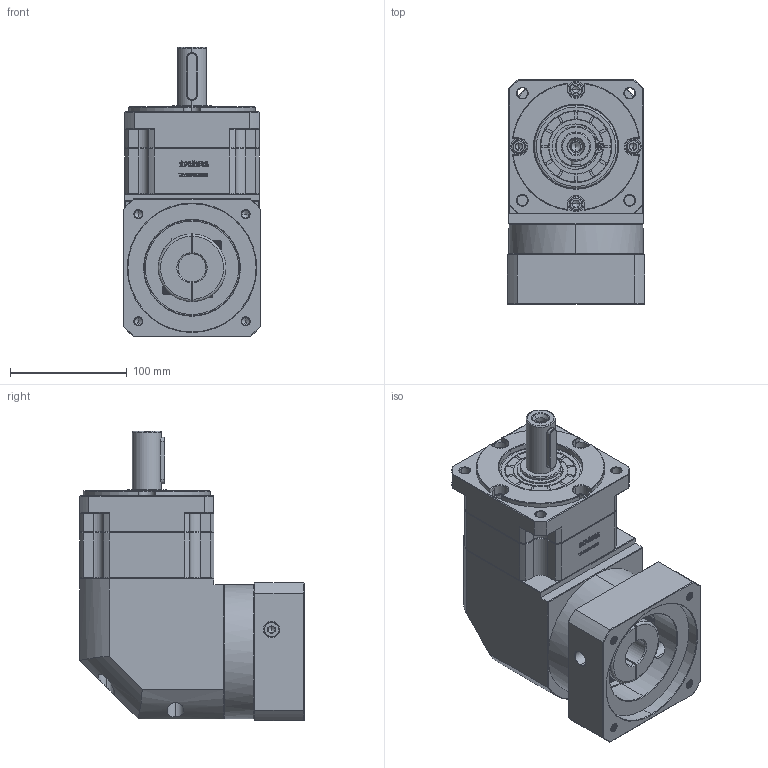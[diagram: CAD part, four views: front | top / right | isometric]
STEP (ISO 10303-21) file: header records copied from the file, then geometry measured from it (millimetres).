
FILE_DESCRIPTION (( 'STEP AP214' ), '1' );
FILE_NAME ('ZBR115A-D25-L1-24-110-130-M8.step', '2023-03-03T04:55:26', ( '' ), ( 'Microsoft' ), 'SwSTEP 2.0', 'SolidWorks 2016', '' );
FILE_SCHEMA (( 'AUTOMOTIVE_DESIGN' ));
Length unit declared in the file: millimetre
Products named in the file (1): ZBR115A-D25-L1-24-110-130-M8
Bounding box: 118 x 192.4 x 248 mm (x, y, z)
Volume: 2933473 mm3; surface area: 246921.8 mm2
Topology: 6 solids, 6 shells, 2981 faces, 7921 edges, 5086 vertices
Faces by surface type: plane 1559, bspline 606, cylinder 439, cone 369, torus 8
Entity records: 161772 total; most frequent: CARTESIAN_POINT 59752, ORIENTED_EDGE 15782, DIRECTION 11953, EDGE_CURVE 7891, LINE 5307, VECTOR 5307, VERTEX_POINT 5086, AXIS2_PLACEMENT_3D 3323
